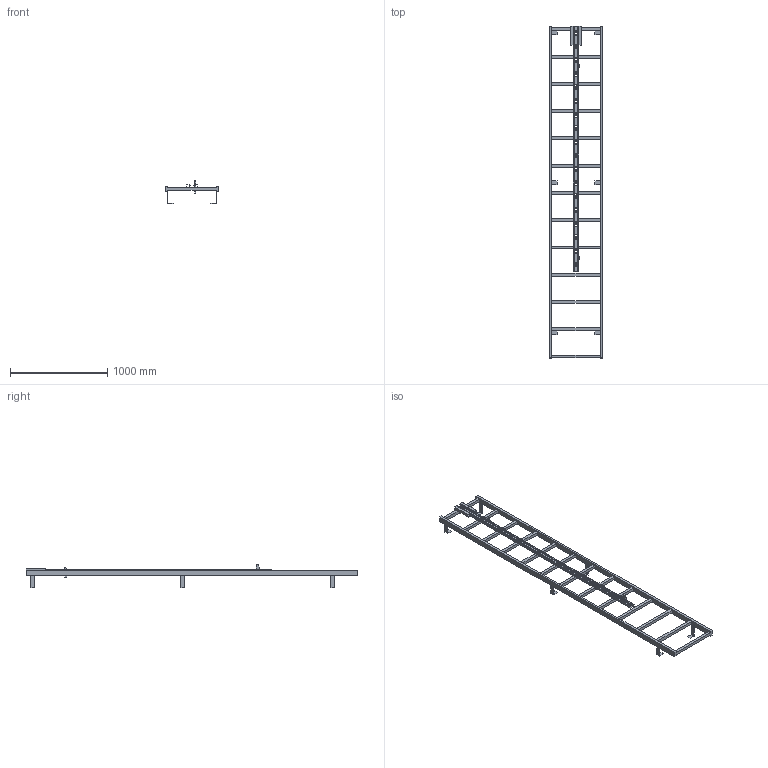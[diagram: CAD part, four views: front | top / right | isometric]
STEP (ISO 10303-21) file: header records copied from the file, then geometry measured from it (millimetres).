
FILE_DESCRIPTION((''),'2;1');
FILE_NAME('52330192','2024-12-05T09:00:56',('wep'),('HUBER SE'),'CREO PARAMETRIC BY PTC INC, 2022162','CREO PARAMETRIC BY PTC INC, 2022162','');
FILE_SCHEMA(('AUTOMOTIVE_DESIGN { 1 0 10303 214 1 1 1 1 }'));
Length unit declared in the file: millimetre
Products named in the file (1): 52330192
Bounding box: 550 x 3410 x 239 mm (x, y, z)
Volume: 16066988 mm3; surface area: 2693671.3 mm2
Topology: 2 solids, 2 shells, 232 faces, 670 edges, 438 vertices
Faces by surface type: plane 232
Entity records: 8121 total; most frequent: CARTESIAN_POINT 1342, ORIENTED_EDGE 1340, DIRECTION 1134, VECTOR 670, LINE 670, EDGE_CURVE 670, VERTEX_POINT 438, EDGE_LOOP 292
